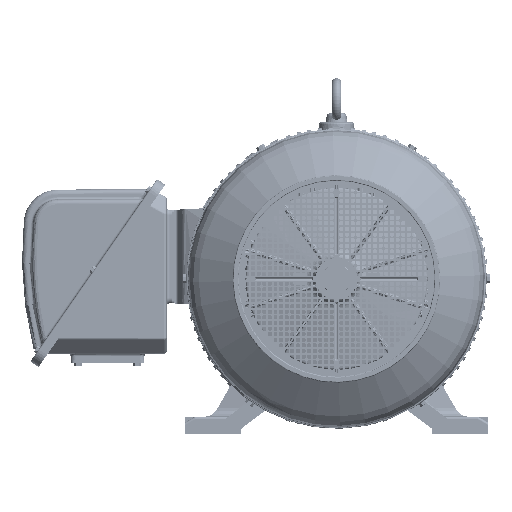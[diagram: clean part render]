
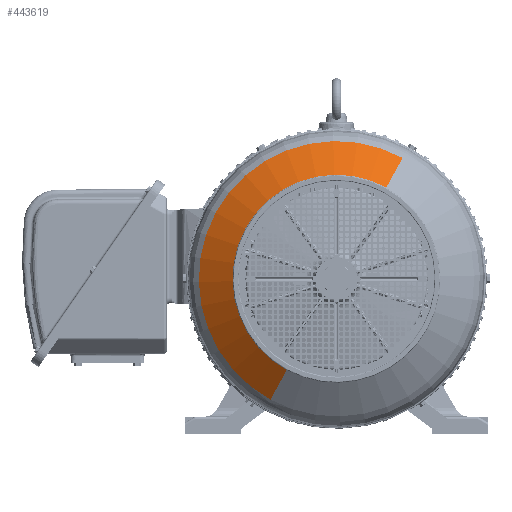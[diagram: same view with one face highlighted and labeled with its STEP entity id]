
A CAD part, front view. The second image highlights one B-rep face of the part: STEP entity #443619.
In plain terms, the highlighted conical face has half-angle 55 degrees and reference radius 211.279 mm.
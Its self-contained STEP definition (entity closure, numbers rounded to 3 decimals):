
#443520=CARTESIAN_POINT('Axis2P3D Location',(0.,-271.104,0.)) ;
#443524=CARTESIAN_POINT('Vertex',(-101.293,-271.104,-185.415)) ;
#443526=CARTESIAN_POINT('Vertex',(101.293,-271.104,185.415)) ;
#443589=CARTESIAN_POINT('Axis2P3D Location',(0.,-271.104,0.)) ;
#443594=CARTESIAN_POINT('Axis2P3D Location',(0.,-223.21,0.)) ;
#443598=CARTESIAN_POINT('Vertex',(-134.085,-223.21,-245.441)) ;
#443600=CARTESIAN_POINT('Vertex',(134.085,-223.21,245.441)) ;
#443603=CARTESIAN_POINT('Line Origine',(-117.689,-247.157,-215.428)) ;
#443608=CARTESIAN_POINT('Line Origine',(117.689,-247.157,215.428)) ;
#443521=DIRECTION('Axis2P3D Direction',(0.,1.,0.)) ;
#443590=DIRECTION('Axis2P3D Direction',(0.,1.,0.)) ;
#443591=DIRECTION('Axis2P3D XDirection',(0.479,0.,0.878)) ;
#443595=DIRECTION('Axis2P3D Direction',(0.,1.,0.)) ;
#443604=DIRECTION('Vector Direction',(-0.393,0.574,-0.719)) ;
#443609=DIRECTION('Vector Direction',(0.393,0.574,0.719)) ;
#443522=AXIS2_PLACEMENT_3D('Circle Axis2P3D',#443520,#443521,$) ;
#443592=AXIS2_PLACEMENT_3D('Cone Axis2P3D',#443589,#443590,#443591) ;
#443596=AXIS2_PLACEMENT_3D('Circle Axis2P3D',#443594,#443595,$) ;
#443614=ORIENTED_EDGE('',*,*,#443602,.F.) ;
#443615=ORIENTED_EDGE('',*,*,#443607,.T.) ;
#443616=ORIENTED_EDGE('',*,*,#443528,.T.) ;
#443617=ORIENTED_EDGE('',*,*,#443612,.F.) ;
#443605=VECTOR('Line Direction',#443604,1.) ;
#443610=VECTOR('Line Direction',#443609,1.) ;
#443619=ADVANCED_FACE('\X2\51434EF6672C9AD4\X0\',(#443618),#443593,.T.) ;
#443523=CIRCLE('generated circle',#443522,211.279) ;
#443597=CIRCLE('generated circle',#443596,279.679) ;
#443593=CONICAL_SURFACE('Cone',#443592,211.279,0.96) ;
#443528=EDGE_CURVE('',#443525,#443527,#443523,.T.) ;
#443602=EDGE_CURVE('',#443599,#443601,#443597,.T.) ;
#443607=EDGE_CURVE('',#443599,#443525,#443606,.F.) ;
#443612=EDGE_CURVE('',#443601,#443527,#443611,.F.) ;
#443613=EDGE_LOOP('',(#443614,#443615,#443616,#443617)) ;
#443618=FACE_OUTER_BOUND('',#443613,.T.) ;
#443606=LINE('Line',#443603,#443605) ;
#443611=LINE('Line',#443608,#443610) ;
#443525=VERTEX_POINT('',#443524) ;
#443527=VERTEX_POINT('',#443526) ;
#443599=VERTEX_POINT('',#443598) ;
#443601=VERTEX_POINT('',#443600) ;
